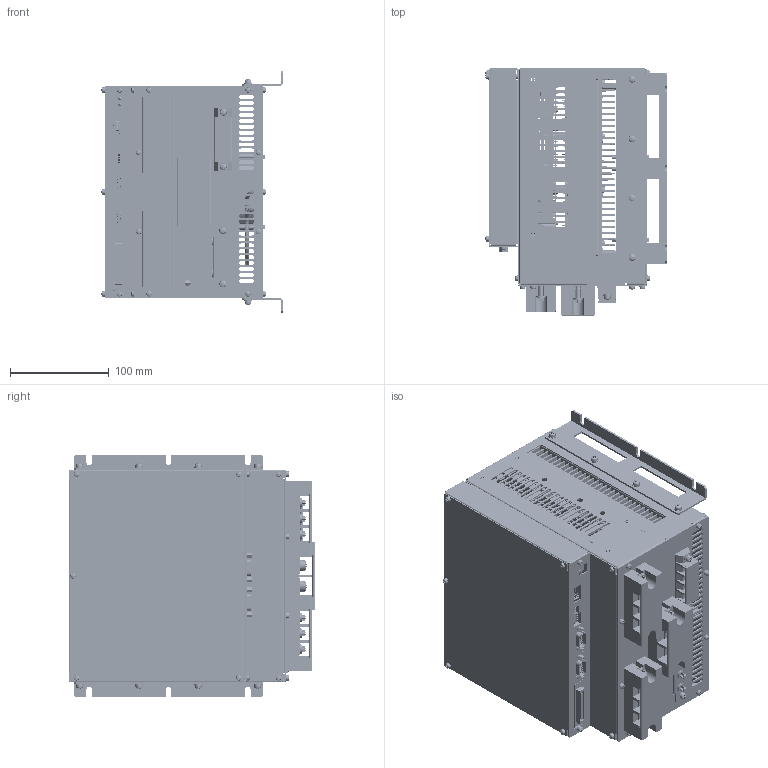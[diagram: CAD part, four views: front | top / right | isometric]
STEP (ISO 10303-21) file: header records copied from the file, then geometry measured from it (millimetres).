
FILE_DESCRIPTION(('HOOPS Exchange Step'),'2;1');
FILE_NAME('/tmp/62e6ad24d64236355d44ff0d15a3e46020230330-1-1r5b9xn.X_T.step','2023-03-30T23:57:52+00:00',('root'),('Unknown organisation'),'HOOPS Exchange 2021.0','HOOPS Exchange','Unknown authorisation');
FILE_SCHEMA( ('AUTOMOTIVE_DESIGN { 1 0 10303 214 1 1 1 1 }') );
Length unit declared in the file: millimetre
Products named in the file (1): 62e6ad24d64236355d44ff0d15a3e46020230330-1-1r5b9xn
Bounding box: 183.17 x 249.5 x 245 mm (x, y, z)
Volume: 1828182.6 mm3; surface area: 1746352.7 mm2
Topology: 1602 solids, 2747 shells, 20090 faces, 57586 edges, 42116 vertices
Faces by surface type: plane 16227, cylinder 3456, bspline 361, sphere 28, torus 10, extrusion 6, cone 2
Full cylindrical faces by diameter (mm): 0.5 x36, 0.8 x121, 0.9 x1, 1 x18, 1.2 x19, 1.4 x10, 1.6 x4, 1.7 x2, 2 x12, 2.2 x54, 2.5 x2, 2.8 x8, 3 x266, 3.1 x6, 3.15 x2, 3.2 x37, 3.5 x78, 3.6 x36, 3.8 x4, 4 x140, 4.3 x26, 4.5 x28, 5 x66, 5.2 x4, 5.5 x161, 5.8 x12, 6 x118, 7 x54, 8 x46, 8.3 x8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
Entity records: 701888 total; most frequent: CARTESIAN_POINT 173040, ORIENTED_EDGE 106913, DIRECTION 99824, EDGE_CURVE 57288, VERTEX_POINT 41638, VECTOR 41616, LINE 41610, AXIS2_PLACEMENT_3D 29104
